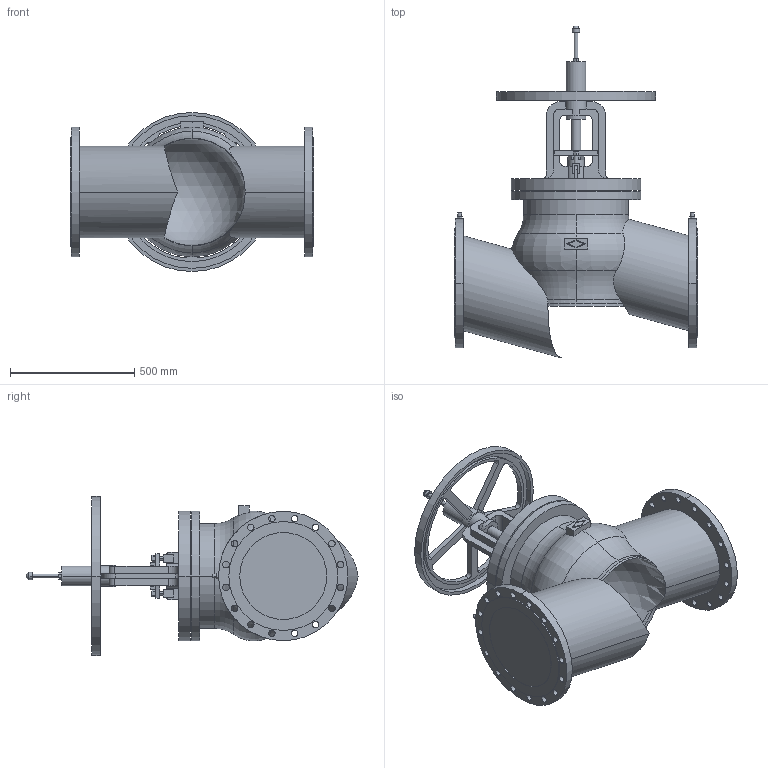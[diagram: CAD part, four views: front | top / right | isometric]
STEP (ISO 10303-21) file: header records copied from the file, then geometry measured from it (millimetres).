
FILE_DESCRIPTION( ( '' ), '1' );
FILE_NAME( 'F:/DE-SHS/TB/OR/04-Sonstiges/daten/files_3d/12042/c000000223.stp', '2015-04-28T06:38:00', ( '' ), ( '' ), ' ', ' ', ' ' );
FILE_SCHEMA( ( 'CONFIG_CONTROL_DESIGN' ) );
Length unit declared in the file: millimetre
Products named in the file (1): 1
Bounding box: 980 x 1335.68 x 640 mm (x, y, z)
Volume: 145132837.4 mm3; surface area: 3724170.5 mm2
Topology: 1 solids, 1 shells, 360 faces, 988 edges, 656 vertices
Faces by surface type: cylinder 173, plane 168, torus 13, sphere 6
Entity records: 12514 total; most frequent: CARTESIAN_POINT 2843, DIRECTION 2068, ORIENTED_EDGE 1968, EDGE_CURVE 984, AXIS2_PLACEMENT_3D 761, VERTEX_POINT 656, LINE 546, VECTOR 546
